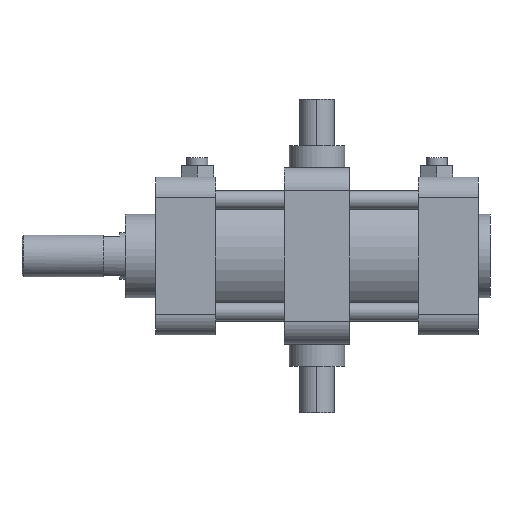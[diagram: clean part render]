
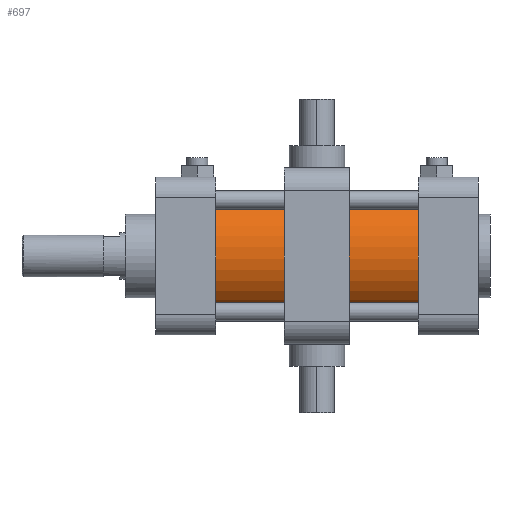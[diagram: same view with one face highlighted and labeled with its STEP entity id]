
A CAD part, front view. The second image highlights one B-rep face of the part: STEP entity #697.
In plain terms, the highlighted cylindrical face has radius 28 mm (diameter 56 mm), a partial arc.
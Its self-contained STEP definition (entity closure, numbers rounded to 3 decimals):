
#149 = EDGE_CURVE ( 'NONE', #4058, #5078, #3768, .T. ) ;
#407 = FACE_OUTER_BOUND ( 'NONE', #928, .T. ) ;
#697 = ADVANCED_FACE ( 'NONE', ( #407 ), #1018, .T. ) ;
#928 = EDGE_LOOP ( 'NONE', ( #3122, #7915, #1007, #6664 ) ) ;
#968 = AXIS2_PLACEMENT_3D ( 'NONE', #5274, #7076, #3067 ) ;
#1007 = ORIENTED_EDGE ( 'NONE', *, *, #149, .T. ) ;
#1018 = CYLINDRICAL_SURFACE ( 'NONE', #968, 28. ) ;
#1053 = DIRECTION ( 'NONE',  ( -1., 0., 0. ) ) ;
#1127 = DIRECTION ( 'NONE',  ( -1., 0., 0. ) ) ;
#1156 = EDGE_CURVE ( 'NONE', #7452, #4058, #6100, .T. ) ;
#1757 = CARTESIAN_POINT ( 'NONE',  ( 43.5, 0., 28. ) ) ;
#2022 = CIRCLE ( 'NONE', #8130, 28. ) ;
#3067 = DIRECTION ( 'NONE',  ( 0., 0., 1. ) ) ;
#3122 = ORIENTED_EDGE ( 'NONE', *, *, #5635, .F. ) ;
#3408 = CARTESIAN_POINT ( 'NONE',  ( -29.1, 0., -28. ) ) ;
#3420 = VECTOR ( 'NONE', #5828, 1000. ) ;
#3610 = DIRECTION ( 'NONE',  ( 0., 0., 1. ) ) ;
#3768 = LINE ( 'NONE', #7764, #3420 ) ;
#3920 = AXIS2_PLACEMENT_3D ( 'NONE', #4431, #6637, #5447 ) ;
#4058 = VERTEX_POINT ( 'NONE', #1757 ) ;
#4431 = CARTESIAN_POINT ( 'NONE',  ( 43.5, 0., 0. ) ) ;
#4450 = VERTEX_POINT ( 'NONE', #5261 ) ;
#5078 = VERTEX_POINT ( 'NONE', #6818 ) ;
#5261 = CARTESIAN_POINT ( 'NONE',  ( -43.5, 0., -28. ) ) ;
#5274 = CARTESIAN_POINT ( 'NONE',  ( -29.1, 0., 0. ) ) ;
#5447 = DIRECTION ( 'NONE',  ( 0., 0., 1. ) ) ;
#5635 = EDGE_CURVE ( 'NONE', #7452, #4450, #6039, .T. ) ;
#5828 = DIRECTION ( 'NONE',  ( -1., 0., 0. ) ) ;
#6039 = LINE ( 'NONE', #3408, #8492 ) ;
#6100 = CIRCLE ( 'NONE', #3920, 28. ) ;
#6637 = DIRECTION ( 'NONE',  ( -1., 0., 0. ) ) ;
#6664 = ORIENTED_EDGE ( 'NONE', *, *, #8818, .F. ) ;
#6818 = CARTESIAN_POINT ( 'NONE',  ( -43.5, 0., 28. ) ) ;
#7010 = CARTESIAN_POINT ( 'NONE',  ( 43.5, 0., -28. ) ) ;
#7076 = DIRECTION ( 'NONE',  ( -1., 0., 0. ) ) ;
#7452 = VERTEX_POINT ( 'NONE', #7010 ) ;
#7764 = CARTESIAN_POINT ( 'NONE',  ( -29.1, 0., 28. ) ) ;
#7915 = ORIENTED_EDGE ( 'NONE', *, *, #1156, .T. ) ;
#8130 = AXIS2_PLACEMENT_3D ( 'NONE', #8626, #1127, #3610 ) ;
#8492 = VECTOR ( 'NONE', #1053, 1000. ) ;
#8626 = CARTESIAN_POINT ( 'NONE',  ( -43.5, 0., 0. ) ) ;
#8818 = EDGE_CURVE ( 'NONE', #4450, #5078, #2022, .T. ) ;
